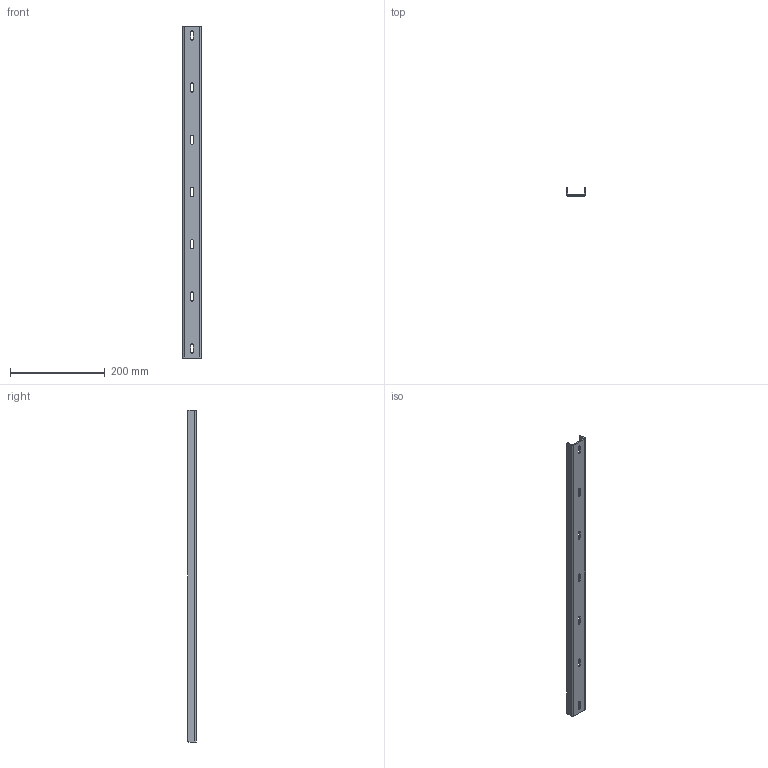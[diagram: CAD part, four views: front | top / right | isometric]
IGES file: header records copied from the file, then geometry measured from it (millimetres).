
Start section: SolidWorks IGES file using analytic representation for surfaces
Bounding box: 40 x 17 x 700 mm (x, y, z)
Surface area: 97099 mm2 (no closed solid volume)
Topology: 0 solids, 0 shells, 98 faces, 1202 edges, 1202 vertices
Faces by surface type: bspline 70, revolution 28
